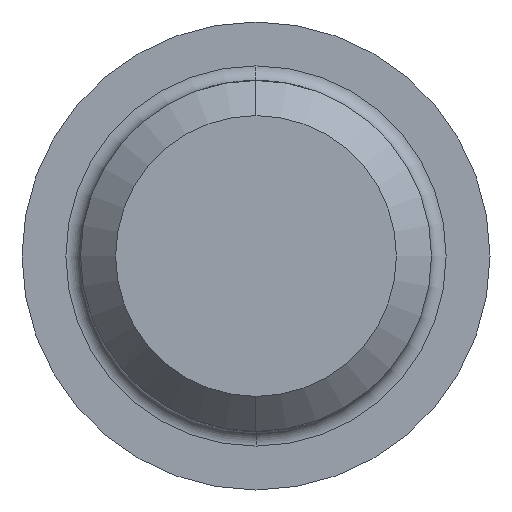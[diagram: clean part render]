
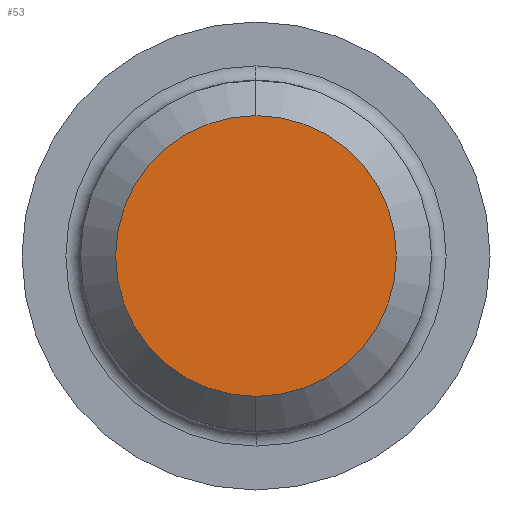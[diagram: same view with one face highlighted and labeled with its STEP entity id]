
A CAD part, left-side view. The second image highlights one B-rep face of the part: STEP entity #53.
In plain terms, the highlighted planar face has unit normal (-1, 0, 0).
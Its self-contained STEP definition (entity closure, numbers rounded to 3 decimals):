
#40 = EDGE_LOOP ( 'NONE', ( #42, #52 ) ) ;
#42 = ORIENTED_EDGE ( 'NONE', *, *, #63, .T. ) ;
#52 = ORIENTED_EDGE ( 'NONE', *, *, #139, .T. ) ;
#53 = ADVANCED_FACE ( 'NONE', ( #324 ), #292, .F. ) ;
#63 = EDGE_CURVE ( 'NONE', #118, #171, #303, .T. ) ;
#108 = CARTESIAN_POINT ( 'NONE',  ( -30., 0., 4.8 ) ) ;
#118 = VERTEX_POINT ( 'NONE', #256 ) ;
#139 = EDGE_CURVE ( 'NONE', #171, #118, #350, .T. ) ;
#171 = VERTEX_POINT ( 'NONE', #108 ) ;
#190 = DIRECTION ( 'NONE',  ( -1., 0., 0. ) ) ;
#256 = CARTESIAN_POINT ( 'NONE',  ( -30., 0., -4.8 ) ) ;
#292 = PLANE ( 'NONE',  #339 ) ;
#295 = DIRECTION ( 'NONE',  ( 0., 0., 1. ) ) ;
#298 = CARTESIAN_POINT ( 'NONE',  ( -30., 0., 0. ) ) ;
#303 = CIRCLE ( 'NONE', #305, 4.8 ) ;
#305 = AXIS2_PLACEMENT_3D ( 'NONE', #298, #317, #295 ) ;
#313 = DIRECTION ( 'NONE',  ( 0., 0., -1. ) ) ;
#314 = DIRECTION ( 'NONE',  ( 1., 0., 0. ) ) ;
#315 = CARTESIAN_POINT ( 'NONE',  ( -30., 4.8, 0. ) ) ;
#317 = DIRECTION ( 'NONE',  ( -1., 0., 0. ) ) ;
#324 = FACE_OUTER_BOUND ( 'NONE', #40, .T. ) ;
#339 = AXIS2_PLACEMENT_3D ( 'NONE', #315, #314, #313 ) ;
#348 = CARTESIAN_POINT ( 'NONE',  ( -30., 0., 0. ) ) ;
#350 = CIRCLE ( 'NONE', #354, 4.8 ) ;
#354 = AXIS2_PLACEMENT_3D ( 'NONE', #348, #190, #386 ) ;
#386 = DIRECTION ( 'NONE',  ( 0., 0., 1. ) ) ;
